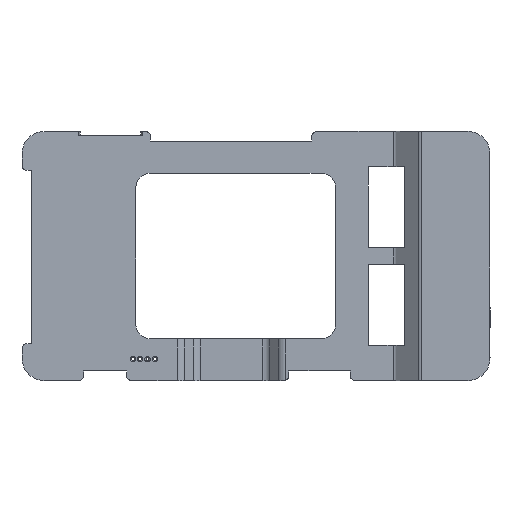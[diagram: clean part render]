
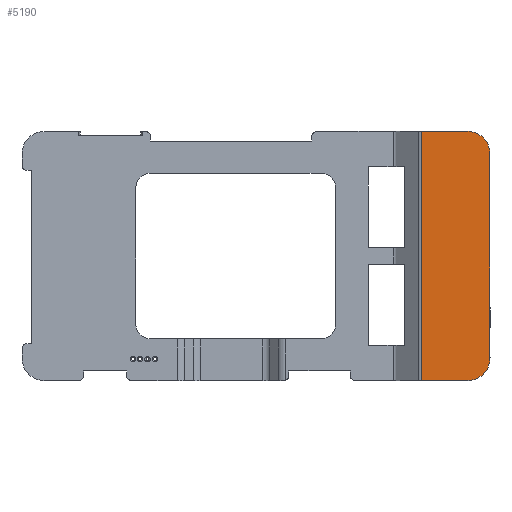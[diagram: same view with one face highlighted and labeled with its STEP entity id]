
A CAD part, top view. The second image highlights one B-rep face of the part: STEP entity #5190.
In plain terms, the highlighted planar face has unit normal (0, 0, 1).
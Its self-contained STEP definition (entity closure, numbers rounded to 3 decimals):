
#283=PLANE('',#5629);
#541=FACE_OUTER_BOUND('',#817,.T.);
#817=EDGE_LOOP('',(#4883,#4884,#4885,#4886,#4887,#4888));
#908=LINE('',#7358,#1495);
#921=LINE('',#7392,#1508);
#1401=LINE('',#8579,#1988);
#1410=LINE('',#8598,#1997);
#1495=VECTOR('',#5856,10.);
#1508=VECTOR('',#5887,10.);
#1988=VECTOR('',#7043,10.);
#1997=VECTOR('',#7066,10.);
#2161=CIRCLE('',#5630,4.549);
#2162=CIRCLE('',#5631,4.549);
#2287=VERTEX_POINT('',#7355);
#2288=VERTEX_POINT('',#7357);
#2299=VERTEX_POINT('',#7389);
#2300=VERTEX_POINT('',#7391);
#2652=VERTEX_POINT('',#8576);
#2653=VERTEX_POINT('',#8578);
#2791=EDGE_CURVE('',#2287,#2288,#908,.F.);
#2809=EDGE_CURVE('',#2299,#2300,#921,.T.);
#3400=EDGE_CURVE('',#2652,#2653,#1401,.F.);
#3409=EDGE_CURVE('',#2653,#2299,#2161,.F.);
#3410=EDGE_CURVE('',#2288,#2652,#2162,.F.);
#3411=EDGE_CURVE('',#2300,#2287,#1410,.T.);
#4883=ORIENTED_EDGE('',*,*,#2809,.F.);
#4884=ORIENTED_EDGE('',*,*,#3409,.F.);
#4885=ORIENTED_EDGE('',*,*,#3400,.F.);
#4886=ORIENTED_EDGE('',*,*,#3410,.F.);
#4887=ORIENTED_EDGE('',*,*,#2791,.F.);
#4888=ORIENTED_EDGE('',*,*,#3411,.F.);
#5190=ADVANCED_FACE('',(#541),#283,.T.);
#5629=AXIS2_PLACEMENT_3D('',#8595,#7060,#7061);
#5630=AXIS2_PLACEMENT_3D('',#8596,#7062,#7063);
#5631=AXIS2_PLACEMENT_3D('',#8597,#7064,#7065);
#5856=DIRECTION('',(-1.,0.,0.));
#5887=DIRECTION('',(-1.,0.,0.));
#7043=DIRECTION('',(0.,1.,0.));
#7060=DIRECTION('center_axis',(0.,0.,
1.));
#7061=DIRECTION('ref_axis',(1.,0.,0.));
#7062=DIRECTION('center_axis',(0.,0.,
1.));
#7063=DIRECTION('ref_axis',(1.,0.,0.));
#7064=DIRECTION('center_axis',(0.,0.,
1.));
#7065=DIRECTION('ref_axis',(1.,0.,0.));
#7066=DIRECTION('',(0.,1.,0.));
#7355=CARTESIAN_POINT('',(79.919,49.05,9.89));
#7357=CARTESIAN_POINT('',(89.414,49.05,9.89));
#7358=CARTESIAN_POINT('',(84.103,49.05,9.89));
#7389=CARTESIAN_POINT('',(89.415,-2.05,9.89));
#7391=CARTESIAN_POINT('',(79.919,-2.05,9.89));
#7392=CARTESIAN_POINT('',(42.604,-2.05,9.89));
#8576=CARTESIAN_POINT('',(93.964,44.5,9.89));
#8578=CARTESIAN_POINT('',(93.964,2.5,9.89));
#8579=CARTESIAN_POINT('',(93.964,13.,9.89));
#8595=CARTESIAN_POINT('Origin',(82.707,23.5,9.89));
#8596=CARTESIAN_POINT('Origin',(89.415,2.499,9.89));
#8597=CARTESIAN_POINT('Origin',(89.415,44.501,9.89));
#8598=CARTESIAN_POINT('',(79.919,23.5,9.89));
